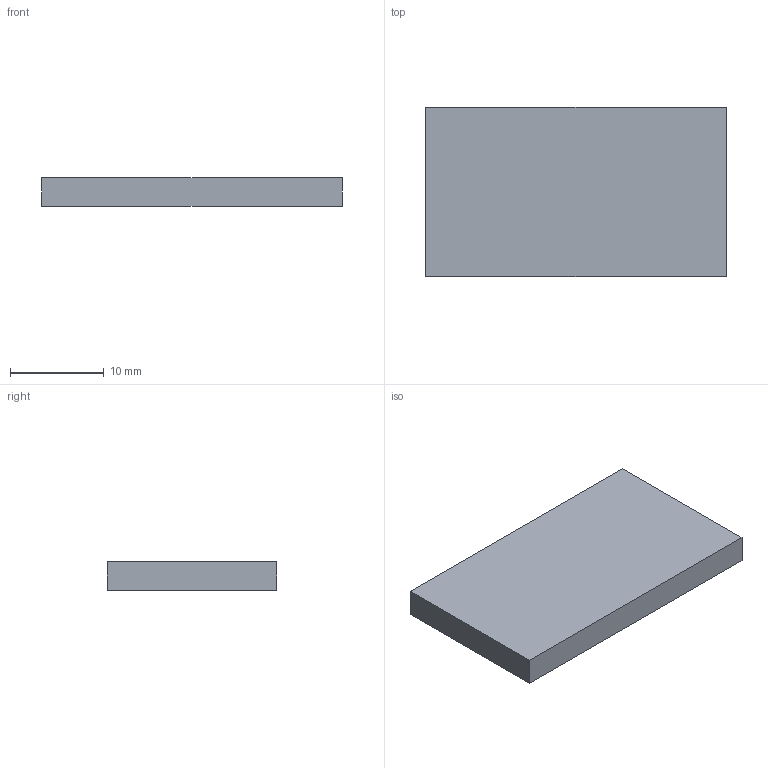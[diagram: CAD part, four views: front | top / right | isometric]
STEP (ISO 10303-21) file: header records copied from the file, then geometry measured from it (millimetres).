
FILE_DESCRIPTION(('Open CASCADE Model'),'2;1');
FILE_NAME('Open CASCADE Shape Model','2026-11-09T21:30:06',('Author'),( 'Open CASCADE'),'Open CASCADE STEP processor 8.0','Open CASCADE 8.0' ,'Unknown');
FILE_SCHEMA(('AUTOMOTIVE_DESIGN { 1 0 10303 214 1 1 1 1 }'));
Length unit declared in the file: millimetre
Products named in the file (1): Open CASCADE STEP translator 8.0 10
Bounding box: 32 x 18 x 3 mm (x, y, z)
Volume: 1728 mm3; surface area: 1452 mm2
Topology: 1 solids, 1 shells, 6 faces, 12 edges, 8 vertices
Faces by surface type: plane 6
Entity records: 322 total; most frequent: CARTESIAN_POINT 51, DIRECTION 50, LINE 36, VECTOR 36, ORIENTED_EDGE 24, PCURVE 24, DEFINITIONAL_REPRESENTATION 24, EDGE_CURVE 12
